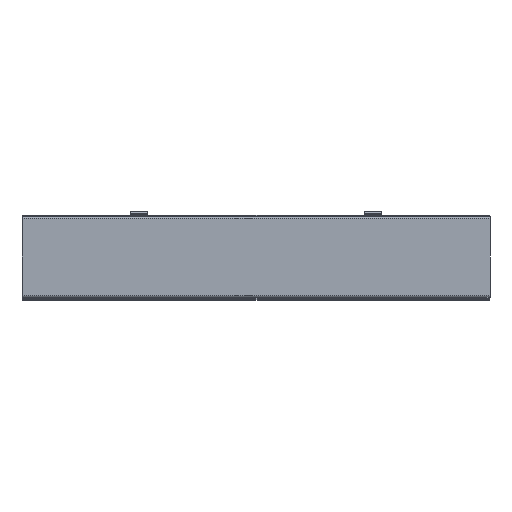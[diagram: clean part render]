
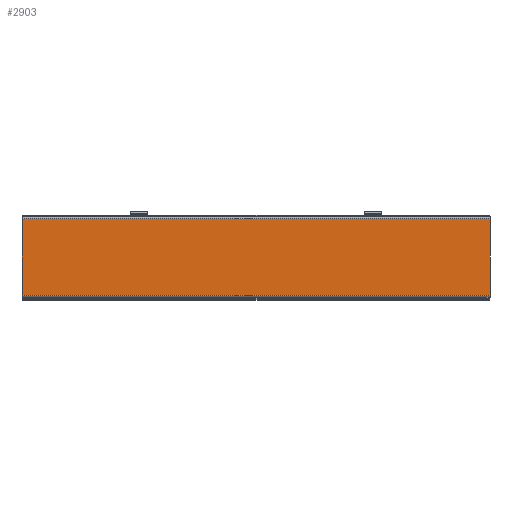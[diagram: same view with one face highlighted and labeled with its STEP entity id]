
A CAD part, front view. The second image highlights one B-rep face of the part: STEP entity #2903.
In plain terms, the highlighted planar face has unit normal (0, -1, 0).
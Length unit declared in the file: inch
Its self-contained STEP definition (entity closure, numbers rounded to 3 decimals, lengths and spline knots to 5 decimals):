
#320 = AXIS2_PLACEMENT_3D ( 'NONE', #935, #928, #912 ) ;
#378 = EDGE_CURVE ( 'NONE', #4380, #4373, #1679, .T. ) ;
#379 = EDGE_CURVE ( 'NONE', #4384, #4373, #1676, .T. ) ;
#756 = EDGE_CURVE ( 'NONE', #4380, #4375, #5308, .T. ) ;
#765 = EDGE_CURVE ( 'NONE', #4384, #4375, #5289, .T. ) ;
#900 = PLANE ( 'NONE',  #320 ) ;
#912 = DIRECTION ( 'NONE',  ( 0., 0., -1. ) ) ;
#928 = DIRECTION ( 'NONE',  ( 0., -1., 0. ) ) ;
#935 = CARTESIAN_POINT ( 'NONE',  ( -12., -0.055, -2.075 ) ) ;
#1246 = CARTESIAN_POINT ( 'NONE',  ( 12., -0.055, 1.96 ) ) ;
#1247 = CARTESIAN_POINT ( 'NONE',  ( -12., -0.055, -1.96 ) ) ;
#1249 = CARTESIAN_POINT ( 'NONE',  ( -12., -0.055, 1.96 ) ) ;
#1250 = CARTESIAN_POINT ( 'NONE',  ( 12., -0.055, -1.96 ) ) ;
#1674 = VECTOR ( 'NONE', #5193, 39.37008 ) ;
#1676 = LINE ( 'NONE', #5200, #1674 ) ;
#1678 = VECTOR ( 'NONE', #5165, 39.37008 ) ;
#1679 = LINE ( 'NONE', #5195, #1678 ) ;
#1708 = ORIENTED_EDGE ( 'NONE', *, *, #378, .T. ) ;
#1709 = ORIENTED_EDGE ( 'NONE', *, *, #379, .F. ) ;
#1710 = ORIENTED_EDGE ( 'NONE', *, *, #765, .T. ) ;
#2140 = ORIENTED_EDGE ( 'NONE', *, *, #756, .F. ) ;
#2477 = EDGE_LOOP ( 'NONE', ( #2140, #1708, #1709, #1710 ) ) ;
#2903 = ADVANCED_FACE ( 'NONE', ( #3779 ), #900, .T. ) ;
#3779 = FACE_OUTER_BOUND ( 'NONE', #2477, .T. ) ;
#4373 = VERTEX_POINT ( 'NONE', #1250 ) ;
#4375 = VERTEX_POINT ( 'NONE', #1249 ) ;
#4380 = VERTEX_POINT ( 'NONE', #1247 ) ;
#4384 = VERTEX_POINT ( 'NONE', #1246 ) ;
#4896 = DIRECTION ( 'NONE',  ( -1., 0., 0. ) ) ;
#4897 = CARTESIAN_POINT ( 'NONE',  ( 12., -0.055, 1.96 ) ) ;
#4916 = DIRECTION ( 'NONE',  ( 0., 0., 1. ) ) ;
#4917 = CARTESIAN_POINT ( 'NONE',  ( -12., -0.055, 2.075 ) ) ;
#5165 = DIRECTION ( 'NONE',  ( 1., 0., 0. ) ) ;
#5193 = DIRECTION ( 'NONE',  ( 0., 0., -1. ) ) ;
#5195 = CARTESIAN_POINT ( 'NONE',  ( -12., -0.055, -1.96 ) ) ;
#5200 = CARTESIAN_POINT ( 'NONE',  ( 12., -0.055, 2.075 ) ) ;
#5288 = VECTOR ( 'NONE', #4896, 39.37008 ) ;
#5289 = LINE ( 'NONE', #4897, #5288 ) ;
#5307 = VECTOR ( 'NONE', #4916, 39.37008 ) ;
#5308 = LINE ( 'NONE', #4917, #5307 ) ;
